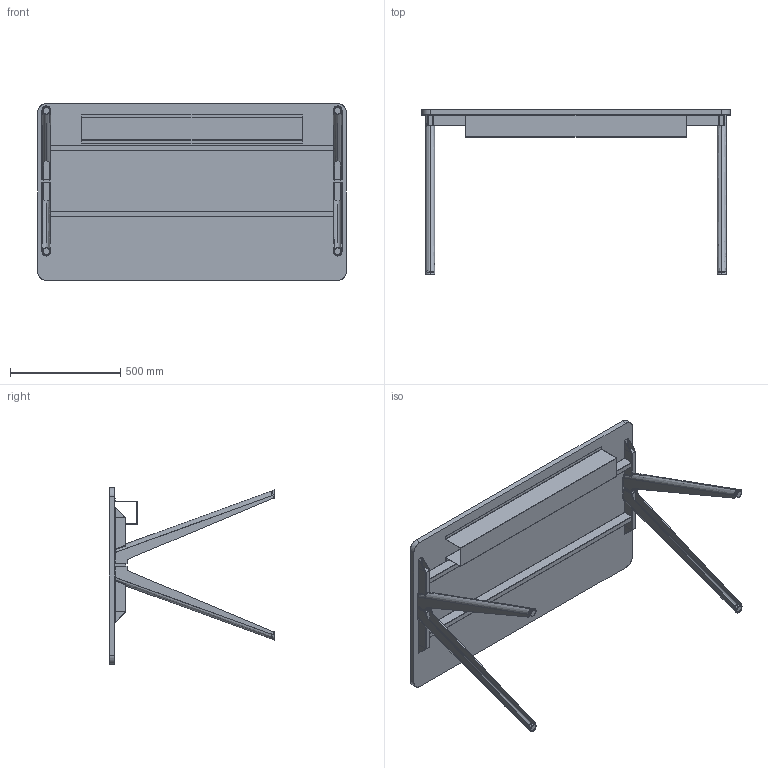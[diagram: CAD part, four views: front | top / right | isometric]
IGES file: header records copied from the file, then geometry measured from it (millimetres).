
Start section: SolidWorks IGES file using analytic representation for surfaces
Global section: file name: C:\Users\simone.cerana\OneDrive - Gruppo Tecno\Desktop\CHINA\DISEGNI DI SERIE\ASSIEMI LISTINO\HORIZON LISTINO\FULL OPTIONAL\HO1408FO.IGS; native system: SolidWorks 2024; preprocessor: SolidWorks 2024; author: simone.cerana; date: 260512.143926; units: millimetre
Bounding box: 1400 x 750.58 x 800 mm (x, y, z)
Surface area: 4110751.9 mm2 (no closed solid volume)
Topology: 0 solids, 0 shells, 292 faces, 3808 edges, 3808 vertices
Faces by surface type: bspline 198, revolution 94
